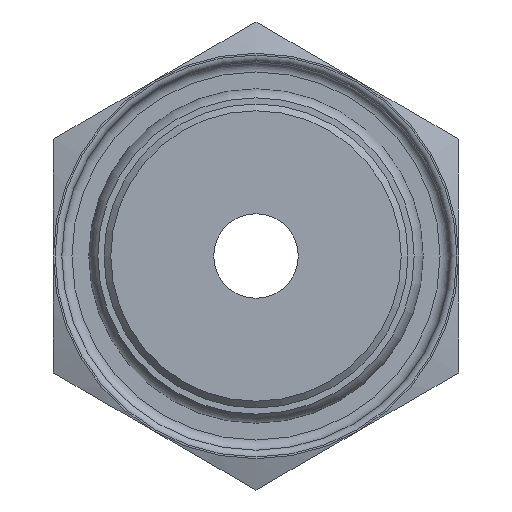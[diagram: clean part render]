
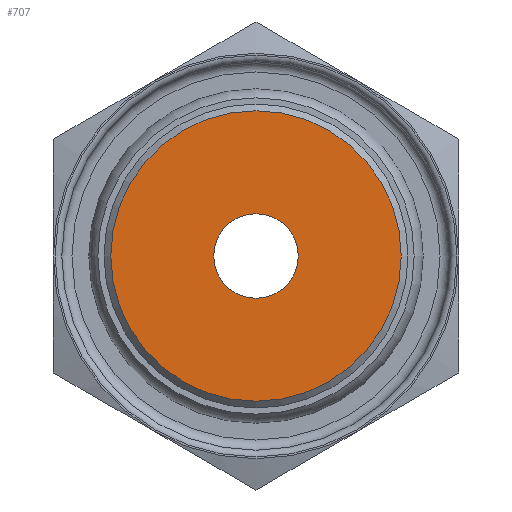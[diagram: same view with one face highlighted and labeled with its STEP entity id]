
A CAD part, front view. The second image highlights one B-rep face of the part: STEP entity #707.
In plain terms, the highlighted planar face has unit normal (0, -1, 0).
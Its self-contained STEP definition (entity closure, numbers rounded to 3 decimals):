
#73=FACE_BOUND('',#177,.T.);
#85=PLANE('',#863);
#122=FACE_OUTER_BOUND('',#176,.T.);
#176=EDGE_LOOP('',(#548));
#177=EDGE_LOOP('',(#549));
#274=CIRCLE('',#841,1.25);
#289=CIRCLE('',#862,4.3);
#328=VERTEX_POINT('',#1221);
#342=VERTEX_POINT('',#1260);
#397=EDGE_CURVE('',#328,#328,#274,.T.);
#417=EDGE_CURVE('',#342,#342,#289,.T.);
#548=ORIENTED_EDGE('',*,*,#417,.F.);
#549=ORIENTED_EDGE('',*,*,#397,.T.);
#707=ADVANCED_FACE('',(#122,#73),#85,.T.);
#841=AXIS2_PLACEMENT_3D('',#1222,#988,#989);
#862=AXIS2_PLACEMENT_3D('',#1262,#1035,#1036);
#863=AXIS2_PLACEMENT_3D('',#1263,#1037,#1038);
#988=DIRECTION('center_axis',(0.,1.,0.));
#989=DIRECTION('ref_axis',(1.,0.,0.));
#1035=DIRECTION('center_axis',(0.,1.,0.));
#1036=DIRECTION('ref_axis',(1.,0.,0.));
#1037=DIRECTION('center_axis',(0.,-1.,0.));
#1038=DIRECTION('ref_axis',(0.,0.,-1.));
#1221=CARTESIAN_POINT('',(-1.25,-6.5,0.));
#1222=CARTESIAN_POINT('Origin',(0.,-6.5,0.));
#1260=CARTESIAN_POINT('',(-4.3,-6.5,0.));
#1262=CARTESIAN_POINT('Origin',(0.,-6.5,0.));
#1263=CARTESIAN_POINT('Origin',(-4.5,-6.5,0.));
